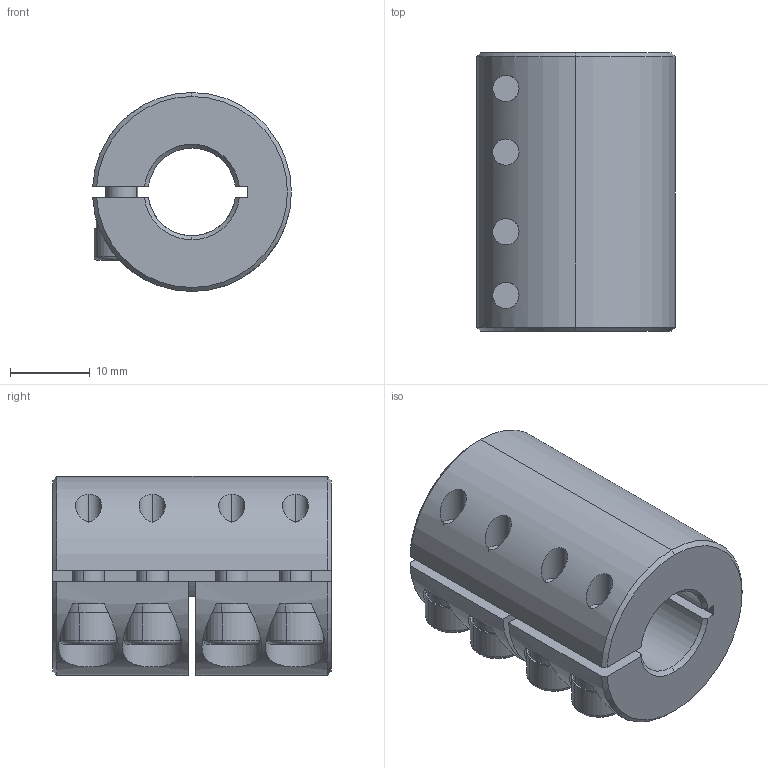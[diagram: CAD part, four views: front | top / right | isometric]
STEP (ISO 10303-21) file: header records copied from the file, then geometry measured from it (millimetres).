
FILE_DESCRIPTION (( 'STEP AP203' ), '1' );
FILE_NAME ('LL-B-D25L35-11-11.STEP', '2021-11-05T07:05:38', ( '' ), ( '' ), 'SwSTEP 2.0', 'SolidWorks 2018', '' );
FILE_SCHEMA (( 'CONFIG_CONTROL_DESIGN' ));
Length unit declared in the file: millimetre
Products named in the file (1): LL-B-D25L35-11-11
Bounding box: 24.98 x 35 x 25 mm (x, y, z)
Volume: 12949.6 mm3; surface area: 6871.9 mm2
Topology: 1 solids, 1 shells, 187 faces, 478 edges, 297 vertices
Faces by surface type: plane 90, cylinder 69, cone 20, torus 8
Entity records: 6142 total; most frequent: CARTESIAN_POINT 1467, DIRECTION 1011, ORIENTED_EDGE 940, EDGE_CURVE 470, AXIS2_PLACEMENT_3D 393, VERTEX_POINT 297, VECTOR 225, LINE 225
